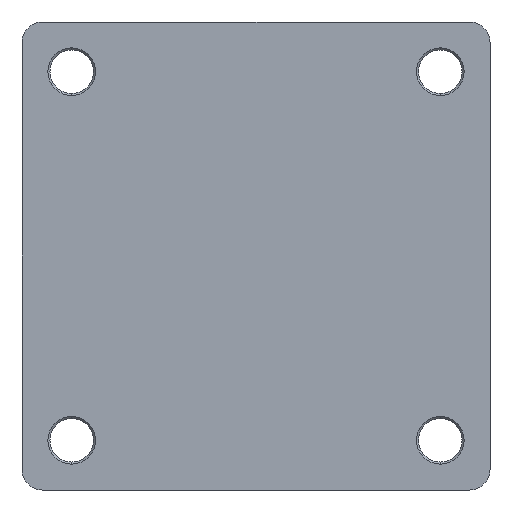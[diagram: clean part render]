
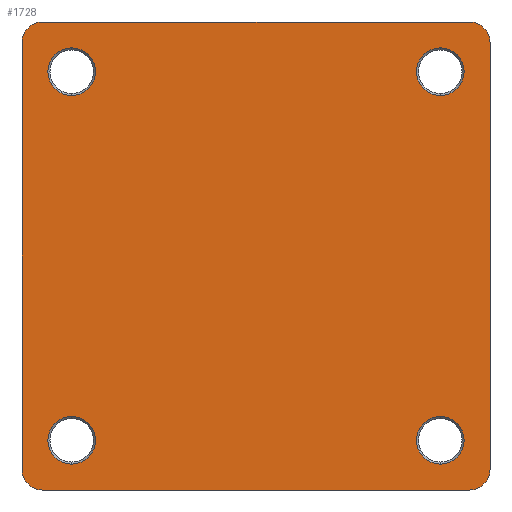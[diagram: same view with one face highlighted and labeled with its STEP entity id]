
A CAD part, left-side view. The second image highlights one B-rep face of the part: STEP entity #1728.
In plain terms, the highlighted planar face has unit normal (-1, 0, 0).
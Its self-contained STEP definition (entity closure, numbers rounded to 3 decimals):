
#6 = VERTEX_POINT ( 'NONE', #1357 ) ;
#8 = AXIS2_PLACEMENT_3D ( 'NONE', #1362, #356, #1792 ) ;
#25 = VERTEX_POINT ( 'NONE', #1785 ) ;
#31 = AXIS2_PLACEMENT_3D ( 'NONE', #1001, #145, #1145 ) ;
#39 = DIRECTION ( 'NONE',  ( 1., 0., 0. ) ) ;
#47 = AXIS2_PLACEMENT_3D ( 'NONE', #885, #39, #310 ) ;
#57 = ORIENTED_EDGE ( 'NONE', *, *, #132, .F. ) ;
#60 = CARTESIAN_POINT ( 'NONE',  ( -14., 51.5, -56.5 ) ) ;
#71 = CARTESIAN_POINT ( 'NONE',  ( -14., -56.5, 51.5 ) ) ;
#94 = CIRCLE ( 'NONE', #604, 5.75 ) ;
#132 = EDGE_CURVE ( 'NONE', #459, #25, #1080, .T. ) ;
#142 = AXIS2_PLACEMENT_3D ( 'NONE', #1222, #1076, #220 ) ;
#145 = DIRECTION ( 'NONE',  ( -1., 0., 0. ) ) ;
#149 = CARTESIAN_POINT ( 'NONE',  ( -14., 51.5, -51.5 ) ) ;
#155 = DIRECTION ( 'NONE',  ( -1., 0., 0. ) ) ;
#210 = CARTESIAN_POINT ( 'NONE',  ( -14., 44.5, -50.25 ) ) ;
#220 = DIRECTION ( 'NONE',  ( 0., 0., -1. ) ) ;
#222 = FACE_BOUND ( 'NONE', #1061, .T. ) ;
#237 = ORIENTED_EDGE ( 'NONE', *, *, #669, .F. ) ;
#241 = CIRCLE ( 'NONE', #31, 5.75 ) ;
#248 = CARTESIAN_POINT ( 'NONE',  ( -14., -56.5, 51.5 ) ) ;
#260 = EDGE_CURVE ( 'NONE', #805, #829, #1720, .T. ) ;
#263 = FACE_OUTER_BOUND ( 'NONE', #1395, .T. ) ;
#271 = ORIENTED_EDGE ( 'NONE', *, *, #359, .F. ) ;
#273 = AXIS2_PLACEMENT_3D ( 'NONE', #452, #1474, #594 ) ;
#277 = CIRCLE ( 'NONE', #8, 5.75 ) ;
#283 = FACE_BOUND ( 'NONE', #1622, .T. ) ;
#285 = EDGE_CURVE ( 'NONE', #1177, #6, #1005, .T. ) ;
#292 = CARTESIAN_POINT ( 'NONE',  ( -14., 44.5, 44.5 ) ) ;
#310 = DIRECTION ( 'NONE',  ( 0., 0., -1. ) ) ;
#322 = EDGE_CURVE ( 'NONE', #1369, #1162, #1693, .T. ) ;
#331 = DIRECTION ( 'NONE',  ( -1., 0., 0. ) ) ;
#356 = DIRECTION ( 'NONE',  ( -1., 0., 0. ) ) ;
#359 = EDGE_CURVE ( 'NONE', #1487, #1177, #440, .T. ) ;
#363 = DIRECTION ( 'NONE',  ( -1., 0., 0. ) ) ;
#380 = ORIENTED_EDGE ( 'NONE', *, *, #1563, .F. ) ;
#404 = CARTESIAN_POINT ( 'NONE',  ( -14., -44.5, -50.25 ) ) ;
#425 = DIRECTION ( 'NONE',  ( 0., 0., -1. ) ) ;
#440 = LINE ( 'NONE', #1039, #957 ) ;
#445 = CARTESIAN_POINT ( 'NONE',  ( -14., -51.5, -56.5 ) ) ;
#452 = CARTESIAN_POINT ( 'NONE',  ( -14., -44.5, -44.5 ) ) ;
#455 = DIRECTION ( 'NONE',  ( 0., 0., -1. ) ) ;
#458 = AXIS2_PLACEMENT_3D ( 'NONE', #719, #1453, #425 ) ;
#459 = VERTEX_POINT ( 'NONE', #210 ) ;
#462 = ORIENTED_EDGE ( 'NONE', *, *, #1202, .F. ) ;
#472 = LINE ( 'NONE', #1861, #1150 ) ;
#477 = PLANE ( 'NONE',  #142 ) ;
#504 = CARTESIAN_POINT ( 'NONE',  ( -14., -51.5, 56.5 ) ) ;
#528 = CARTESIAN_POINT ( 'NONE',  ( -14., 44.5, 50.25 ) ) ;
#536 = EDGE_CURVE ( 'NONE', #1551, #757, #277, .T. ) ;
#560 = DIRECTION ( 'NONE',  ( 0., -1., 0. ) ) ;
#589 = CARTESIAN_POINT ( 'NONE',  ( -14., -51.5, -51.5 ) ) ;
#593 = CARTESIAN_POINT ( 'NONE',  ( -14., 44.5, -44.5 ) ) ;
#594 = DIRECTION ( 'NONE',  ( 0., 0., 1. ) ) ;
#604 = AXIS2_PLACEMENT_3D ( 'NONE', #292, #155, #1462 ) ;
#624 = ORIENTED_EDGE ( 'NONE', *, *, #840, .F. ) ;
#635 = DIRECTION ( 'NONE',  ( -1., 0., 0. ) ) ;
#650 = CIRCLE ( 'NONE', #956, 5. ) ;
#669 = EDGE_CURVE ( 'NONE', #25, #459, #1308, .T. ) ;
#685 = VERTEX_POINT ( 'NONE', #71 ) ;
#701 = VERTEX_POINT ( 'NONE', #504 ) ;
#706 = CARTESIAN_POINT ( 'NONE',  ( -14., 56.5, -51.5 ) ) ;
#719 = CARTESIAN_POINT ( 'NONE',  ( -14., -51.5, 51.5 ) ) ;
#739 = DIRECTION ( 'NONE',  ( 0., 1., 0. ) ) ;
#752 = EDGE_CURVE ( 'NONE', #685, #1369, #1408, .T. ) ;
#757 = VERTEX_POINT ( 'NONE', #1848 ) ;
#783 = EDGE_CURVE ( 'NONE', #6, #701, #472, .T. ) ;
#805 = VERTEX_POINT ( 'NONE', #404 ) ;
#829 = VERTEX_POINT ( 'NONE', #992 ) ;
#840 = EDGE_CURVE ( 'NONE', #701, #685, #929, .T. ) ;
#841 = DIRECTION ( 'NONE',  ( 0., 0., -1. ) ) ;
#875 = CARTESIAN_POINT ( 'NONE',  ( -14., 56.5, 51.5 ) ) ;
#879 = ORIENTED_EDGE ( 'NONE', *, *, #783, .F. ) ;
#882 = DIRECTION ( 'NONE',  ( 0., 0., -1. ) ) ;
#885 = CARTESIAN_POINT ( 'NONE',  ( -14., 51.5, 51.5 ) ) ;
#915 = AXIS2_PLACEMENT_3D ( 'NONE', #589, #1043, #455 ) ;
#928 = DIRECTION ( 'NONE',  ( 0., 0., 1. ) ) ;
#929 = CIRCLE ( 'NONE', #458, 5. ) ;
#938 = AXIS2_PLACEMENT_3D ( 'NONE', #1253, #363, #1248 ) ;
#956 = AXIS2_PLACEMENT_3D ( 'NONE', #149, #1600, #882 ) ;
#957 = VECTOR ( 'NONE', #1636, 1000. ) ;
#982 = AXIS2_PLACEMENT_3D ( 'NONE', #593, #331, #1500 ) ;
#992 = CARTESIAN_POINT ( 'NONE',  ( -14., -44.5, -38.75 ) ) ;
#996 = CARTESIAN_POINT ( 'NONE',  ( -14., -44.5, 38.75 ) ) ;
#1001 = CARTESIAN_POINT ( 'NONE',  ( -14., -44.5, 44.5 ) ) ;
#1005 = CIRCLE ( 'NONE', #47, 5. ) ;
#1020 = CARTESIAN_POINT ( 'NONE',  ( -14., -44.5, -44.5 ) ) ;
#1026 = VERTEX_POINT ( 'NONE', #528 ) ;
#1039 = CARTESIAN_POINT ( 'NONE',  ( -14., 56.5, -51.5 ) ) ;
#1043 = DIRECTION ( 'NONE',  ( 1., 0., 0. ) ) ;
#1054 = CIRCLE ( 'NONE', #273, 5.75 ) ;
#1061 = EDGE_LOOP ( 'NONE', ( #1701, #1412 ) ) ;
#1076 = DIRECTION ( 'NONE',  ( 1., 0., 0. ) ) ;
#1080 = CIRCLE ( 'NONE', #982, 5.75 ) ;
#1083 = ORIENTED_EDGE ( 'NONE', *, *, #285, .F. ) ;
#1145 = DIRECTION ( 'NONE',  ( 0., 0., 1. ) ) ;
#1148 = VECTOR ( 'NONE', #739, 1000. ) ;
#1150 = VECTOR ( 'NONE', #560, 1000. ) ;
#1162 = VERTEX_POINT ( 'NONE', #1294 ) ;
#1164 = VERTEX_POINT ( 'NONE', #1311 ) ;
#1169 = DIRECTION ( 'NONE',  ( 0., 0., 1. ) ) ;
#1177 = VERTEX_POINT ( 'NONE', #875 ) ;
#1196 = LINE ( 'NONE', #445, #1148 ) ;
#1202 = EDGE_CURVE ( 'NONE', #1162, #1765, #1196, .T. ) ;
#1222 = CARTESIAN_POINT ( 'NONE',  ( -14., -51.5, 51.5 ) ) ;
#1223 = EDGE_CURVE ( 'NONE', #757, #1551, #241, .T. ) ;
#1248 = DIRECTION ( 'NONE',  ( 0., 0., 1. ) ) ;
#1253 = CARTESIAN_POINT ( 'NONE',  ( -14., 44.5, 44.5 ) ) ;
#1294 = CARTESIAN_POINT ( 'NONE',  ( -14., -51.5, -56.5 ) ) ;
#1308 = CIRCLE ( 'NONE', #1375, 5.75 ) ;
#1311 = CARTESIAN_POINT ( 'NONE',  ( -14., 44.5, 38.75 ) ) ;
#1326 = DIRECTION ( 'NONE',  ( -1., 0., 0. ) ) ;
#1357 = CARTESIAN_POINT ( 'NONE',  ( -14., 51.5, 56.5 ) ) ;
#1362 = CARTESIAN_POINT ( 'NONE',  ( -14., -44.5, 44.5 ) ) ;
#1369 = VERTEX_POINT ( 'NONE', #1713 ) ;
#1375 = AXIS2_PLACEMENT_3D ( 'NONE', #1513, #635, #928 ) ;
#1377 = CIRCLE ( 'NONE', #938, 5.75 ) ;
#1395 = EDGE_LOOP ( 'NONE', ( #624, #879, #1083, #271, #380, #462, #1399, #1766 ) ) ;
#1399 = ORIENTED_EDGE ( 'NONE', *, *, #322, .F. ) ;
#1400 = ORIENTED_EDGE ( 'NONE', *, *, #536, .F. ) ;
#1408 = LINE ( 'NONE', #248, #1700 ) ;
#1412 = ORIENTED_EDGE ( 'NONE', *, *, #260, .F. ) ;
#1429 = FACE_BOUND ( 'NONE', #1839, .T. ) ;
#1431 = EDGE_LOOP ( 'NONE', ( #1770, #1781 ) ) ;
#1453 = DIRECTION ( 'NONE',  ( 1., 0., 0. ) ) ;
#1462 = DIRECTION ( 'NONE',  ( 0., 0., 1. ) ) ;
#1474 = DIRECTION ( 'NONE',  ( -1., 0., 0. ) ) ;
#1487 = VERTEX_POINT ( 'NONE', #706 ) ;
#1500 = DIRECTION ( 'NONE',  ( 0., 0., 1. ) ) ;
#1513 = CARTESIAN_POINT ( 'NONE',  ( -14., 44.5, -44.5 ) ) ;
#1551 = VERTEX_POINT ( 'NONE', #996 ) ;
#1563 = EDGE_CURVE ( 'NONE', #1765, #1487, #650, .T. ) ;
#1590 = EDGE_CURVE ( 'NONE', #1164, #1026, #94, .T. ) ;
#1600 = DIRECTION ( 'NONE',  ( 1., 0., 0. ) ) ;
#1613 = ORIENTED_EDGE ( 'NONE', *, *, #1223, .F. ) ;
#1622 = EDGE_LOOP ( 'NONE', ( #1613, #1400 ) ) ;
#1636 = DIRECTION ( 'NONE',  ( 0., 0., 1. ) ) ;
#1693 = CIRCLE ( 'NONE', #915, 5. ) ;
#1700 = VECTOR ( 'NONE', #841, 1000. ) ;
#1701 = ORIENTED_EDGE ( 'NONE', *, *, #1705, .F. ) ;
#1705 = EDGE_CURVE ( 'NONE', #829, #805, #1054, .T. ) ;
#1713 = CARTESIAN_POINT ( 'NONE',  ( -14., -56.5, -51.5 ) ) ;
#1720 = CIRCLE ( 'NONE', #1822, 5.75 ) ;
#1728 = ADVANCED_FACE ( 'NONE', ( #1429, #1786, #222, #283, #263 ), #477, .F. ) ;
#1765 = VERTEX_POINT ( 'NONE', #60 ) ;
#1766 = ORIENTED_EDGE ( 'NONE', *, *, #752, .F. ) ;
#1770 = ORIENTED_EDGE ( 'NONE', *, *, #1851, .F. ) ;
#1781 = ORIENTED_EDGE ( 'NONE', *, *, #1590, .F. ) ;
#1785 = CARTESIAN_POINT ( 'NONE',  ( -14., 44.5, -38.75 ) ) ;
#1786 = FACE_BOUND ( 'NONE', #1431, .T. ) ;
#1792 = DIRECTION ( 'NONE',  ( 0., 0., 1. ) ) ;
#1822 = AXIS2_PLACEMENT_3D ( 'NONE', #1020, #1326, #1169 ) ;
#1839 = EDGE_LOOP ( 'NONE', ( #237, #57 ) ) ;
#1848 = CARTESIAN_POINT ( 'NONE',  ( -14., -44.5, 50.25 ) ) ;
#1851 = EDGE_CURVE ( 'NONE', #1026, #1164, #1377, .T. ) ;
#1861 = CARTESIAN_POINT ( 'NONE',  ( -14., 51.5, 56.5 ) ) ;
